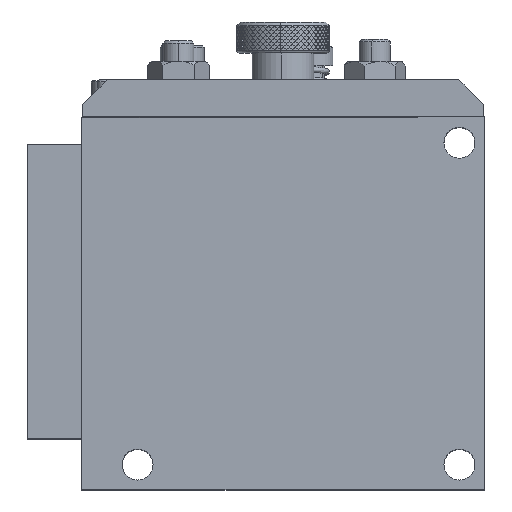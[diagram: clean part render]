
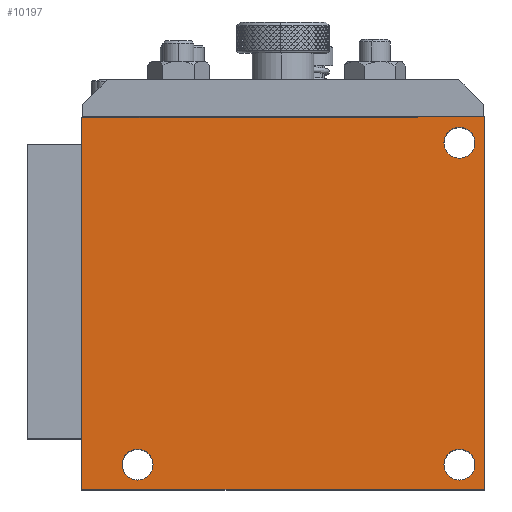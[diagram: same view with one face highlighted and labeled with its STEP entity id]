
A CAD part, top view. The second image highlights one B-rep face of the part: STEP entity #10197.
In plain terms, the highlighted planar face has unit normal (0, 0, 1).
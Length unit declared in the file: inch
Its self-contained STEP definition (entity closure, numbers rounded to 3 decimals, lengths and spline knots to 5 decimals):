
#1341 = VERTEX_POINT ( 'NONE', #43430 ) ;
#5180 = ORIENTED_EDGE ( 'NONE', *, *, #8557, .F. ) ;
#5328 = ORIENTED_EDGE ( 'NONE', *, *, #41114, .T. ) ;
#7733 = CARTESIAN_POINT ( 'NONE',  ( 1.3, 1.3, 1.5 ) ) ;
#8557 = EDGE_CURVE ( 'Defeatured_28_20+Defeatured_28_5+Defeatured_28_18+Defeatured_28_1', #86368, #94114, #19457, .T. ) ;
#10197 = ADVANCED_FACE ( 'Defeatured_28_5', ( #28838, #94914, #62793, #22422 ), #129884, .T. ) ;
#10968 = CARTESIAN_POINT ( 'NONE',  ( 1.425, -1.3, 1.5 ) ) ;
#11401 = VECTOR ( 'NONE', #54758, 39.37008 ) ;
#11439 = CARTESIAN_POINT ( 'NONE',  ( 1.3, 1.3, 1.5 ) ) ;
#11942 = EDGE_CURVE ( 'Defeatured_28_5+Defeatured_28_0+Defeatured_28_4+Defeatured_28_1', #123878, #35449, #19509, .T. ) ;
#15458 = CARTESIAN_POINT ( 'NONE',  ( -1.3, -1.3, 1.5 ) ) ;
#16371 = DIRECTION ( 'NONE',  ( 1., 0., 0. ) ) ;
#16583 = DIRECTION ( 'NONE',  ( 0., 0., 1. ) ) ;
#16658 = ORIENTED_EDGE ( 'NONE', *, *, #128407, .T. ) ;
#17468 = CIRCLE ( 'NONE', #68555, 0.125 ) ;
#18346 = DIRECTION ( 'NONE',  ( 1., 0., 0. ) ) ;
#19205 = VERTEX_POINT ( 'NONE', #47393 ) ;
#19457 = LINE ( 'NONE', #116268, #11401 ) ;
#19475 = ORIENTED_EDGE ( 'NONE', *, *, #47246, .F. ) ;
#19509 = LINE ( 'NONE', #45392, #40424 ) ;
#20051 = CARTESIAN_POINT ( 'NONE',  ( 0.962, 1.508, 1.5 ) ) ;
#22422 = FACE_OUTER_BOUND ( 'NONE', #88773, .T. ) ;
#22662 = CARTESIAN_POINT ( 'NONE',  ( -1.75, 1.5, 1.5 ) ) ;
#23497 = AXIS2_PLACEMENT_3D ( 'NONE', #32920, #104011, #125595 ) ;
#23541 = DIRECTION ( 'NONE',  ( -1., 0., 0. ) ) ;
#26179 = ORIENTED_EDGE ( 'NONE', *, *, #53420, .T. ) ;
#28838 = FACE_BOUND ( 'NONE', #131226, .T. ) ;
#31415 = ORIENTED_EDGE ( 'NONE', *, *, #39995, .F. ) ;
#31479 = LINE ( 'NONE', #22662, #50946 ) ;
#32920 = CARTESIAN_POINT ( 'NONE',  ( 1.3, -1.3, 1.5 ) ) ;
#34028 = DIRECTION ( 'NONE',  ( 1., 0., 0. ) ) ;
#34587 = AXIS2_PLACEMENT_3D ( 'NONE', #100419, #101274, #50514 ) ;
#35449 = VERTEX_POINT ( 'NONE', #130751 ) ;
#37684 = AXIS2_PLACEMENT_3D ( 'NONE', #11439, #103262, #124860 ) ;
#39995 = EDGE_CURVE ( 'Defeatured_28_25+Defeatured_28_5+Defeatured_28_5+Defeatured_28_5', #19205, #89956, #75121, .T. ) ;
#40200 = EDGE_CURVE ( 'Defeatured_28_5+Defeatured_28_18+Defeatured_28_20+Defeatured_28_3', #86368, #1341, #60489, .T. ) ;
#40424 = VECTOR ( 'NONE', #54505, 39.37008 ) ;
#41114 = EDGE_CURVE ( 'Defeatured_28_5+Defeatured_28_1+Defeatured_28_0+Defeatured_28_20', #35449, #94114, #65235, .T. ) ;
#41910 = CARTESIAN_POINT ( 'NONE',  ( 1.175, 1.3, 1.5 ) ) ;
#43259 = VERTEX_POINT ( 'NONE', #41910 ) ;
#43430 = CARTESIAN_POINT ( 'NONE',  ( 0.962, 1.5, 1.5 ) ) ;
#44629 = DIRECTION ( 'NONE',  ( 0., -1., 0. ) ) ;
#45392 = CARTESIAN_POINT ( 'NONE',  ( -1.75, -1.5, 1.5 ) ) ;
#45624 = DIRECTION ( 'NONE',  ( 0., -1., 0. ) ) ;
#46450 = ORIENTED_EDGE ( 'NONE', *, *, #94557, .F. ) ;
#46694 = AXIS2_PLACEMENT_3D ( 'NONE', #7733, #121079, #121531 ) ;
#47246 = EDGE_CURVE ( 'Defeatured_28_24+Defeatured_28_5+Defeatured_28_5+Defeatured_28_5', #98428, #120787, #17468, .T. ) ;
#47393 = CARTESIAN_POINT ( 'NONE',  ( 1.175, -1.3, 1.5 ) ) ;
#50514 = DIRECTION ( 'NONE',  ( 1., 0., 0. ) ) ;
#50946 = VECTOR ( 'NONE', #23541, 39.37008 ) ;
#53420 = EDGE_CURVE ( 'Defeatured_28_5+Defeatured_28_4+Defeatured_28_3+Defeatured_28_0', #63919, #123878, #71968, .T. ) ;
#54071 = EDGE_CURVE ( 'Defeatured_28_26+Defeatured_28_5+Defeatured_28_5+Defeatured_28_5', #98231, #43259, #84591, .T. ) ;
#54505 = DIRECTION ( 'NONE',  ( 1., 0., 0. ) ) ;
#54758 = DIRECTION ( 'NONE',  ( 1., 0., 0. ) ) ;
#55100 = CARTESIAN_POINT ( 'NONE',  ( -1.175, -1.3, 1.5 ) ) ;
#59450 = ORIENTED_EDGE ( 'NONE', *, *, #54071, .F. ) ;
#60489 = LINE ( 'NONE', #95932, #76618 ) ;
#60889 = CIRCLE ( 'NONE', #61825, 0.125 ) ;
#61825 = AXIS2_PLACEMENT_3D ( 'NONE', #125827, #106855, #34028 ) ;
#62793 = FACE_BOUND ( 'NONE', #66792, .T. ) ;
#63919 = VERTEX_POINT ( 'NONE', #71908 ) ;
#65235 = LINE ( 'NONE', #101612, #118193 ) ;
#66792 = EDGE_LOOP ( 'NONE', ( #19475, #92213 ) ) ;
#66816 = CARTESIAN_POINT ( 'NONE',  ( -1.75, 1.5, 1.5 ) ) ;
#68128 = CIRCLE ( 'NONE', #46694, 0.125 ) ;
#68404 = CARTESIAN_POINT ( 'NONE',  ( 0., 0., 1.5 ) ) ;
#68555 = AXIS2_PLACEMENT_3D ( 'NONE', #15458, #98266, #16371 ) ;
#71908 = CARTESIAN_POINT ( 'NONE',  ( -1.75, 1.5, 1.5 ) ) ;
#71968 = LINE ( 'NONE', #66816, #99244 ) ;
#75121 = CIRCLE ( 'NONE', #23497, 0.125 ) ;
#76618 = VECTOR ( 'NONE', #44629, 39.37008 ) ;
#80750 = AXIS2_PLACEMENT_3D ( 'NONE', #68404, #16583, #18346 ) ;
#81387 = EDGE_CURVE ( 'Defeatured_28_25+Defeatured_28_5+Defeatured_28_5+Defeatured_28_5', #89956, #19205, #108367, .T. ) ;
#84591 = CIRCLE ( 'NONE', #37684, 0.125 ) ;
#86368 = VERTEX_POINT ( 'NONE', #20051 ) ;
#88773 = EDGE_LOOP ( 'NONE', ( #26179, #106328, #5328, #5180, #92216, #16658 ) ) ;
#89956 = VERTEX_POINT ( 'NONE', #10968 ) ;
#92213 = ORIENTED_EDGE ( 'NONE', *, *, #127210, .F. ) ;
#92216 = ORIENTED_EDGE ( 'NONE', *, *, #40200, .T. ) ;
#94114 = VERTEX_POINT ( 'NONE', #103333 ) ;
#94557 = EDGE_CURVE ( 'Defeatured_28_26+Defeatured_28_5+Defeatured_28_5+Defeatured_28_5', #43259, #98231, #68128, .T. ) ;
#94914 = FACE_BOUND ( 'NONE', #102617, .T. ) ;
#95932 = CARTESIAN_POINT ( 'NONE',  ( 0.962, 1.508, 1.5 ) ) ;
#98231 = VERTEX_POINT ( 'NONE', #131528 ) ;
#98266 = DIRECTION ( 'NONE',  ( 0., 0., 1. ) ) ;
#98428 = VERTEX_POINT ( 'NONE', #55100 ) ;
#99244 = VECTOR ( 'NONE', #45624, 39.37008 ) ;
#100419 = CARTESIAN_POINT ( 'NONE',  ( 1.3, -1.3, 1.5 ) ) ;
#101274 = DIRECTION ( 'NONE',  ( 0., 0., 1. ) ) ;
#101612 = CARTESIAN_POINT ( 'NONE',  ( 1.5, 1.5, 1.5 ) ) ;
#102505 = CARTESIAN_POINT ( 'NONE',  ( -1.425, -1.3, 1.5 ) ) ;
#102617 = EDGE_LOOP ( 'NONE', ( #128746, #31415 ) ) ;
#103262 = DIRECTION ( 'NONE',  ( 0., 0., 1. ) ) ;
#103333 = CARTESIAN_POINT ( 'NONE',  ( 1.5, 1.508, 1.5 ) ) ;
#104011 = DIRECTION ( 'NONE',  ( 0., 0., 1. ) ) ;
#106328 = ORIENTED_EDGE ( 'NONE', *, *, #11942, .T. ) ;
#106855 = DIRECTION ( 'NONE',  ( 0., 0., 1. ) ) ;
#108367 = CIRCLE ( 'NONE', #34587, 0.125 ) ;
#116268 = CARTESIAN_POINT ( 'NONE',  ( 0.962, 1.508, 1.5 ) ) ;
#118193 = VECTOR ( 'NONE', #121389, 39.37008 ) ;
#120787 = VERTEX_POINT ( 'NONE', #102505 ) ;
#121079 = DIRECTION ( 'NONE',  ( 0., 0., 1. ) ) ;
#121389 = DIRECTION ( 'NONE',  ( 0., 1., 0. ) ) ;
#121531 = DIRECTION ( 'NONE',  ( 1., 0., 0. ) ) ;
#123878 = VERTEX_POINT ( 'NONE', #127648 ) ;
#124860 = DIRECTION ( 'NONE',  ( 1., 0., 0. ) ) ;
#125595 = DIRECTION ( 'NONE',  ( 1., 0., 0. ) ) ;
#125827 = CARTESIAN_POINT ( 'NONE',  ( -1.3, -1.3, 1.5 ) ) ;
#127210 = EDGE_CURVE ( 'Defeatured_28_24+Defeatured_28_5+Defeatured_28_5+Defeatured_28_5', #120787, #98428, #60889, .T. ) ;
#127648 = CARTESIAN_POINT ( 'NONE',  ( -1.75, -1.5, 1.5 ) ) ;
#128407 = EDGE_CURVE ( 'Defeatured_28_5+Defeatured_28_3+Defeatured_28_18+Defeatured_28_4', #1341, #63919, #31479, .T. ) ;
#128746 = ORIENTED_EDGE ( 'NONE', *, *, #81387, .F. ) ;
#129884 = PLANE ( 'NONE',  #80750 ) ;
#130751 = CARTESIAN_POINT ( 'NONE',  ( 1.5, -1.5, 1.5 ) ) ;
#131226 = EDGE_LOOP ( 'NONE', ( #59450, #46450 ) ) ;
#131528 = CARTESIAN_POINT ( 'NONE',  ( 1.425, 1.3, 1.5 ) ) ;
